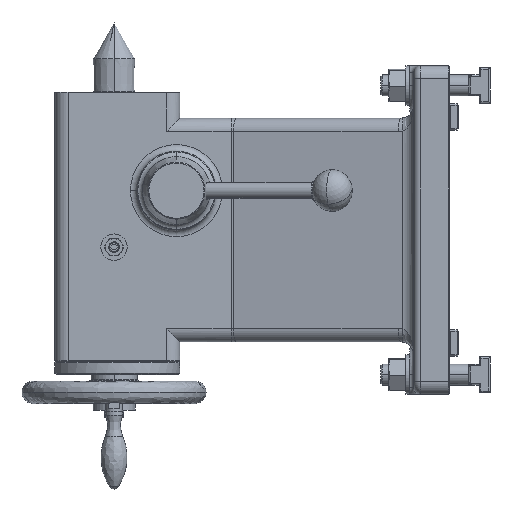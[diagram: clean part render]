
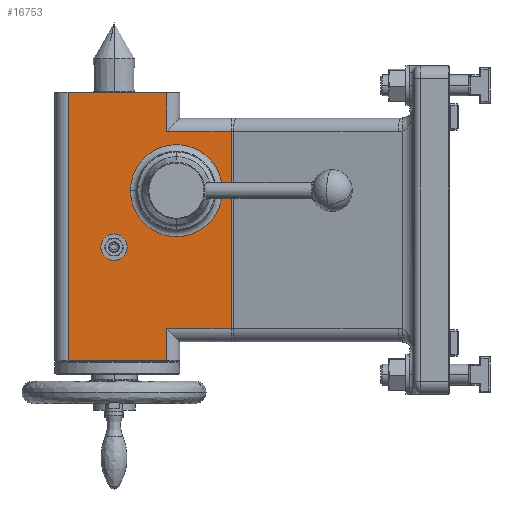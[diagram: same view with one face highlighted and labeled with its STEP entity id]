
A CAD part, left-side view. The second image highlights one B-rep face of the part: STEP entity #16753.
In plain terms, the highlighted planar face has unit normal (-1, 0, 0).
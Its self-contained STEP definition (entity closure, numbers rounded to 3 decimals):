
#351 = CARTESIAN_POINT ( 'NONE',  ( -50., 0., -138. ) ) ;
#599 = DIRECTION ( 'NONE',  ( 0., 0., 1. ) ) ;
#1710 = ORIENTED_EDGE ( 'NONE', *, *, #18359, .T. ) ;
#1894 = PLANE ( 'NONE',  #37240 ) ;
#2650 = CARTESIAN_POINT ( 'NONE',  ( -50., -40., -50. ) ) ;
#3183 = CIRCLE ( 'NONE', #34748, 10. ) ;
#3234 = DIRECTION ( 'NONE',  ( 0., -1., 0. ) ) ;
#3520 = VECTOR ( 'NONE', #25433, 1000. ) ;
#3747 = CARTESIAN_POINT ( 'NONE',  ( -50., -82.5, -95. ) ) ;
#3807 = DIRECTION ( 'NONE',  ( 1., 0., 0. ) ) ;
#3884 = LINE ( 'NONE', #15708, #9708 ) ;
#4135 = VERTEX_POINT ( 'NONE', #34912 ) ;
#4650 = EDGE_CURVE ( 'NONE', #17537, #35236, #34273, .T. ) ;
#5037 = DIRECTION ( 'NONE',  ( 0., 1., 0. ) ) ;
#5430 = LINE ( 'NONE', #35250, #16176 ) ;
#5754 = DIRECTION ( 'NONE',  ( 0., 1., 0. ) ) ;
#6554 = DIRECTION ( 'NONE',  ( 0., -1., 0. ) ) ;
#6579 = VECTOR ( 'NONE', #20955, 1000. ) ;
#6867 = DIRECTION ( 'NONE',  ( 0., 0., 1. ) ) ;
#7256 = CARTESIAN_POINT ( 'NONE',  ( -50., 35., -250. ) ) ;
#7301 = LINE ( 'NONE', #12726, #9000 ) ;
#7912 = DIRECTION ( 'NONE',  ( -1., 0., 0. ) ) ;
#7952 = VERTEX_POINT ( 'NONE', #36564 ) ;
#8378 = ORIENTED_EDGE ( 'NONE', *, *, #24252, .T. ) ;
#8887 = EDGE_LOOP ( 'NONE', ( #31766, #31540 ) ) ;
#9000 = VECTOR ( 'NONE', #27833, 1000. ) ;
#9330 = CARTESIAN_POINT ( 'NONE',  ( -50., -40., -224.5 ) ) ;
#9708 = VECTOR ( 'NONE', #599, 1000. ) ;
#9771 = ORIENTED_EDGE ( 'NONE', *, *, #36573, .T. ) ;
#9792 = CARTESIAN_POINT ( 'NONE',  ( -50., -40., -20. ) ) ;
#10015 = ORIENTED_EDGE ( 'NONE', *, *, #14823, .F. ) ;
#11195 = FACE_OUTER_BOUND ( 'NONE', #27241, .T. ) ;
#11258 = CARTESIAN_POINT ( 'NONE',  ( -50., -40., -50. ) ) ;
#11333 = CARTESIAN_POINT ( 'NONE',  ( -50., 0., -138. ) ) ;
#11502 = VECTOR ( 'NONE', #5754, 1000. ) ;
#11895 = DIRECTION ( 'NONE',  ( -1., 0., 0. ) ) ;
#12028 = EDGE_CURVE ( 'NONE', #35236, #17537, #20741, .T. ) ;
#12191 = DIRECTION ( 'NONE',  ( -1., 0., 0. ) ) ;
#12375 = VERTEX_POINT ( 'NONE', #33076 ) ;
#12572 = CARTESIAN_POINT ( 'NONE',  ( -50., 35., -224.5 ) ) ;
#12726 = CARTESIAN_POINT ( 'NONE',  ( -50., -89.102, -40. ) ) ;
#12970 = EDGE_LOOP ( 'NONE', ( #10015, #32598 ) ) ;
#14823 = EDGE_CURVE ( 'NONE', #30812, #12375, #30465, .T. ) ;
#15457 = CARTESIAN_POINT ( 'NONE',  ( -50., -89.102, -50. ) ) ;
#15475 = CARTESIAN_POINT ( 'NONE',  ( -50., -89.102, -200. ) ) ;
#15708 = CARTESIAN_POINT ( 'NONE',  ( -50., -40., -210. ) ) ;
#16176 = VECTOR ( 'NONE', #5037, 1000. ) ;
#16276 = EDGE_CURVE ( 'NONE', #27358, #35701, #5430, .T. ) ;
#16753 = ADVANCED_FACE ( 'NONE', ( #22622, #34457, #11195 ), #1894, .T. ) ;
#17063 = CARTESIAN_POINT ( 'NONE',  ( -50., -40., -20.5 ) ) ;
#17537 = VERTEX_POINT ( 'NONE', #3747 ) ;
#17751 = VERTEX_POINT ( 'NONE', #11258 ) ;
#17953 = CARTESIAN_POINT ( 'NONE',  ( -50., 0., -148. ) ) ;
#18061 = AXIS2_PLACEMENT_3D ( 'NONE', #351, #12191, #6554 ) ;
#18359 = EDGE_CURVE ( 'NONE', #32336, #7952, #27533, .T. ) ;
#18485 = LINE ( 'NONE', #7256, #3520 ) ;
#19211 = EDGE_CURVE ( 'NONE', #17751, #27358, #19451, .T. ) ;
#19451 = LINE ( 'NONE', #9792, #33827 ) ;
#19651 = DIRECTION ( 'NONE',  ( 0., -1., 0. ) ) ;
#20019 = ORIENTED_EDGE ( 'NONE', *, *, #25834, .T. ) ;
#20479 = DIRECTION ( 'NONE',  ( 1., 0., 0. ) ) ;
#20538 = CARTESIAN_POINT ( 'NONE',  ( -50., -12.5, -95. ) ) ;
#20615 = VERTEX_POINT ( 'NONE', #15457 ) ;
#20741 = CIRCLE ( 'NONE', #23225, 35. ) ;
#20955 = DIRECTION ( 'NONE',  ( 0., -1., 0. ) ) ;
#21520 = ORIENTED_EDGE ( 'NONE', *, *, #16276, .T. ) ;
#21987 = LINE ( 'NONE', #24883, #23033 ) ;
#22622 = FACE_BOUND ( 'NONE', #12970, .T. ) ;
#23033 = VECTOR ( 'NONE', #19651, 1000. ) ;
#23202 = ORIENTED_EDGE ( 'NONE', *, *, #19211, .T. ) ;
#23225 = AXIS2_PLACEMENT_3D ( 'NONE', #23565, #20479, #35212 ) ;
#23565 = CARTESIAN_POINT ( 'NONE',  ( -50., -47.5, -95. ) ) ;
#23844 = VERTEX_POINT ( 'NONE', #15475 ) ;
#24252 = EDGE_CURVE ( 'NONE', #20615, #17751, #37548, .T. ) ;
#24493 = EDGE_CURVE ( 'NONE', #23844, #20615, #7301, .T. ) ;
#24883 = CARTESIAN_POINT ( 'NONE',  ( -50., -89.102, -200. ) ) ;
#25433 = DIRECTION ( 'NONE',  ( 0., 0., -1. ) ) ;
#25834 = EDGE_CURVE ( 'NONE', #7952, #4135, #3884, .T. ) ;
#26993 = DIRECTION ( 'NONE',  ( 0., -1., 0. ) ) ;
#27241 = EDGE_LOOP ( 'NONE', ( #34687, #1710, #20019, #9771, #32264, #8378, #23202, #21520 ) ) ;
#27358 = VERTEX_POINT ( 'NONE', #17063 ) ;
#27533 = LINE ( 'NONE', #9330, #6579 ) ;
#27660 = CARTESIAN_POINT ( 'NONE',  ( -50., -47.5, -95. ) ) ;
#27833 = DIRECTION ( 'NONE',  ( 0., 0., 1. ) ) ;
#28812 = CARTESIAN_POINT ( 'NONE',  ( -50., 45., -250. ) ) ;
#30465 = CIRCLE ( 'NONE', #18061, 10. ) ;
#30812 = VERTEX_POINT ( 'NONE', #17953 ) ;
#31304 = EDGE_CURVE ( 'NONE', #35701, #32336, #18485, .T. ) ;
#31540 = ORIENTED_EDGE ( 'NONE', *, *, #12028, .T. ) ;
#31766 = ORIENTED_EDGE ( 'NONE', *, *, #4650, .T. ) ;
#31897 = EDGE_CURVE ( 'NONE', #12375, #30812, #3183, .T. ) ;
#32264 = ORIENTED_EDGE ( 'NONE', *, *, #24493, .T. ) ;
#32336 = VERTEX_POINT ( 'NONE', #12572 ) ;
#32598 = ORIENTED_EDGE ( 'NONE', *, *, #31897, .F. ) ;
#32709 = CARTESIAN_POINT ( 'NONE',  ( -50., 35., -20.5 ) ) ;
#33076 = CARTESIAN_POINT ( 'NONE',  ( -50., 0., -128. ) ) ;
#33827 = VECTOR ( 'NONE', #6867, 1000. ) ;
#34273 = CIRCLE ( 'NONE', #36119, 35. ) ;
#34457 = FACE_BOUND ( 'NONE', #8887, .T. ) ;
#34687 = ORIENTED_EDGE ( 'NONE', *, *, #31304, .T. ) ;
#34748 = AXIS2_PLACEMENT_3D ( 'NONE', #11333, #11895, #26993 ) ;
#34829 = DIRECTION ( 'NONE',  ( 0., -1., 0. ) ) ;
#34912 = CARTESIAN_POINT ( 'NONE',  ( -50., -40., -200. ) ) ;
#35212 = DIRECTION ( 'NONE',  ( 0., -1., 0. ) ) ;
#35236 = VERTEX_POINT ( 'NONE', #20538 ) ;
#35250 = CARTESIAN_POINT ( 'NONE',  ( -50., 35., -20.5 ) ) ;
#35701 = VERTEX_POINT ( 'NONE', #32709 ) ;
#36119 = AXIS2_PLACEMENT_3D ( 'NONE', #27660, #3807, #3234 ) ;
#36564 = CARTESIAN_POINT ( 'NONE',  ( -50., -40., -224.5 ) ) ;
#36573 = EDGE_CURVE ( 'NONE', #4135, #23844, #21987, .T. ) ;
#37240 = AXIS2_PLACEMENT_3D ( 'NONE', #28812, #7912, #34829 ) ;
#37548 = LINE ( 'NONE', #2650, #11502 ) ;
